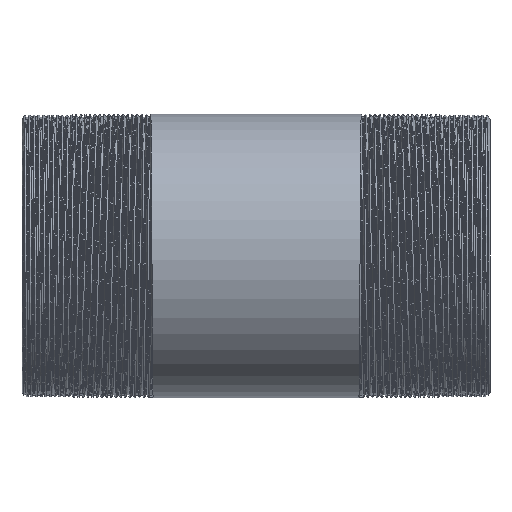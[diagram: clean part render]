
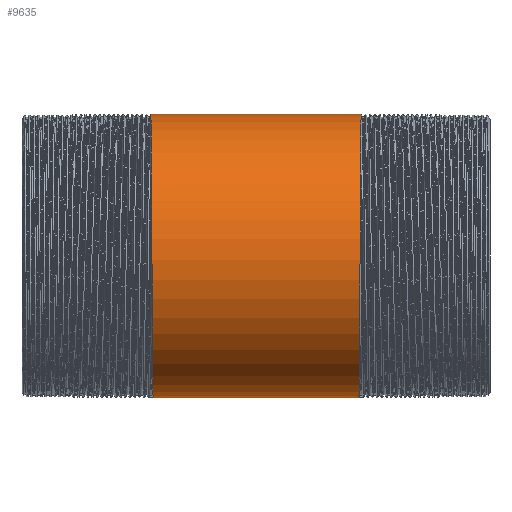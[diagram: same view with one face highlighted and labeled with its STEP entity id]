
A CAD part, front view. The second image highlights one B-rep face of the part: STEP entity #9635.
In plain terms, the highlighted cylindrical face has radius 21.2 mm (diameter 42.4 mm), a partial arc.
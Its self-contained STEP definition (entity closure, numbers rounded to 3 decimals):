
#72 = CARTESIAN_POINT ( 'NONE',  ( -15.563, -24.48, 0. ) ) ;
#173 = CARTESIAN_POINT ( 'NONE',  ( -15.446, -12.24, -21.2 ) ) ;
#406 =( BOUNDED_CURVE ( )  B_SPLINE_CURVE ( 2, ( #1211, #2933, #17861, #16354, #14326, #13131, #4962 ),
 .UNSPECIFIED., .F., .F. ) 
 B_SPLINE_CURVE_WITH_KNOTS ( ( 3, 2, 2, 3 ),
 ( 0., 0.006, 0.011, 0.017 ),
 .UNSPECIFIED. ) 
 CURVE ( )  GEOMETRIC_REPRESENTATION_ITEM ( )  RATIONAL_B_SPLINE_CURVE ( ( 1., 0.866, 1., 0.866, 1., 0.866, 1. ) ) 
 REPRESENTATION_ITEM ( '' )  );
#787 = VECTOR ( 'NONE', #7532, 1000. ) ;
#1211 = CARTESIAN_POINT ( 'NONE',  ( 15.388, 0., -21.2 ) ) ;
#1319 = CARTESIAN_POINT ( 'NONE',  ( -149.494, 0., 21.2 ) ) ;
#1421 = DIRECTION ( 'NONE',  ( -1., 0., 0. ) ) ;
#2000 = CARTESIAN_POINT ( 'NONE',  ( -15.738, 0., 21.2 ) ) ;
#2933 = CARTESIAN_POINT ( 'NONE',  ( 15.446, -12.24, -21.2 ) ) ;
#3088 = ORIENTED_EDGE ( 'NONE', *, *, #5485, .F. ) ;
#3167 = CYLINDRICAL_SURFACE ( 'NONE', #8336, 21.2 ) ;
#3401 = CARTESIAN_POINT ( 'NONE',  ( -15.388, 0., -21.2 ) ) ;
#4583 = DIRECTION ( 'NONE',  ( 0., 0., 1. ) ) ;
#4686 = DIRECTION ( 'NONE',  ( -1., 0., 0. ) ) ;
#4962 = CARTESIAN_POINT ( 'NONE',  ( 15.738, 0., 21.2 ) ) ;
#5485 = EDGE_CURVE ( 'NONE', #13411, #10337, #7820, .T. ) ;
#6498 = FACE_OUTER_BOUND ( 'NONE', #15372, .T. ) ;
#6622 = CARTESIAN_POINT ( 'NONE',  ( -15.621, -18.36, 10.6 ) ) ;
#7278 = CARTESIAN_POINT ( 'NONE',  ( 15.388, 0., -21.2 ) ) ;
#7532 = DIRECTION ( 'NONE',  ( -1., 0., 0. ) ) ;
#7640 = LINE ( 'NONE', #20543, #787 ) ;
#7820 =( BOUNDED_CURVE ( )  B_SPLINE_CURVE ( 2, ( #3401, #173, #14588, #72, #6622, #13080, #10061 ),
 .UNSPECIFIED., .F., .T. ) 
 B_SPLINE_CURVE_WITH_KNOTS ( ( 3, 2, 2, 3 ),
 ( 0., 0.006, 0.011, 0.017 ),
 .UNSPECIFIED. ) 
 CURVE ( )  GEOMETRIC_REPRESENTATION_ITEM ( )  RATIONAL_B_SPLINE_CURVE ( ( 1., 0.866, 1., 0.866, 1., 0.866, 1. ) ) 
 REPRESENTATION_ITEM ( '' )  );
#8189 = VERTEX_POINT ( 'NONE', #15077 ) ;
#8336 = AXIS2_PLACEMENT_3D ( 'NONE', #16072, #4686, #4583 ) ;
#8934 = VERTEX_POINT ( 'NONE', #7278 ) ;
#9323 = CARTESIAN_POINT ( 'NONE',  ( -15.388, 0., -21.2 ) ) ;
#9635 = ADVANCED_FACE ( 'NONE', ( #6498 ), #3167, .T. ) ;
#10061 = CARTESIAN_POINT ( 'NONE',  ( -15.738, 0., 21.2 ) ) ;
#10337 = VERTEX_POINT ( 'NONE', #2000 ) ;
#13080 = CARTESIAN_POINT ( 'NONE',  ( -15.679, -12.24, 21.2 ) ) ;
#13131 = CARTESIAN_POINT ( 'NONE',  ( 15.679, -12.24, 21.2 ) ) ;
#13411 = VERTEX_POINT ( 'NONE', #9323 ) ;
#13733 = ORIENTED_EDGE ( 'NONE', *, *, #20305, .T. ) ;
#14326 = CARTESIAN_POINT ( 'NONE',  ( 15.621, -18.36, 10.6 ) ) ;
#14588 = CARTESIAN_POINT ( 'NONE',  ( -15.504, -18.36, -10.6 ) ) ;
#14951 = ORIENTED_EDGE ( 'NONE', *, *, #18647, .F. ) ;
#15077 = CARTESIAN_POINT ( 'NONE',  ( 15.738, 0., 21.2 ) ) ;
#15372 = EDGE_LOOP ( 'NONE', ( #14951, #13733, #17548, #3088 ) ) ;
#16072 = CARTESIAN_POINT ( 'NONE',  ( -149.494, 0., 0. ) ) ;
#16354 = CARTESIAN_POINT ( 'NONE',  ( 15.563, -24.48, 0. ) ) ;
#17307 = VECTOR ( 'NONE', #1421, 1000. ) ;
#17548 = ORIENTED_EDGE ( 'NONE', *, *, #17733, .T. ) ;
#17733 = EDGE_CURVE ( 'NONE', #8189, #10337, #19163, .T. ) ;
#17861 = CARTESIAN_POINT ( 'NONE',  ( 15.504, -18.36, -10.6 ) ) ;
#18647 = EDGE_CURVE ( 'NONE', #8934, #13411, #7640, .T. ) ;
#19163 = LINE ( 'NONE', #1319, #17307 ) ;
#20305 = EDGE_CURVE ( 'NONE', #8934, #8189, #406, .T. ) ;
#20543 = CARTESIAN_POINT ( 'NONE',  ( -149.494, 0., -21.2 ) ) ;
